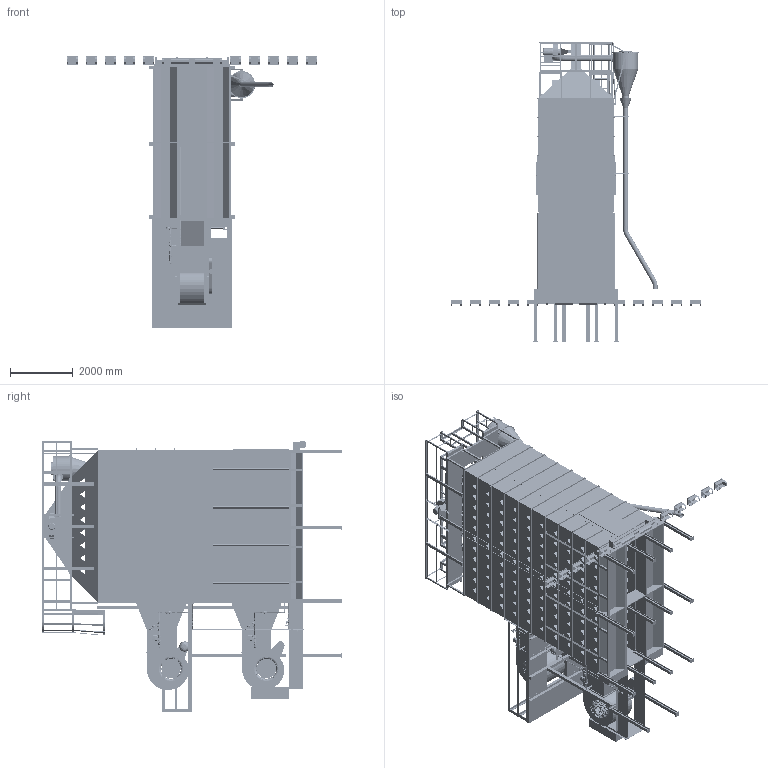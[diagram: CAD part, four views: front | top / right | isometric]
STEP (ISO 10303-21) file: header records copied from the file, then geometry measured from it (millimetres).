
FILE_DESCRIPTION(/* description */ ('PLAN AND ELEVATION VIEW FOR D16120 WITH ROOF & PRE-CLEANER'),/* implementation_level */ '2;1');
FILE_NAME(/* name */ 'C:\Engineering\Designs\Sales\Dryer\Workspaces\D16 All\D16120PC.stp',/* time_stamp */ '2025-01-06T16:48:29-06:00',/* author */ ('max.fleming'),/* organization */ (''),/* preprocessor_version */ 'ST-DEVELOPER v18.1',/* originating_system */ 'Autodesk Inventor 2022',/* authorisation */ '');
FILE_SCHEMA (('AUTOMOTIVE_DESIGN { 1 0 10303 214 3 1 1 }'));
Products named in the file (40): D16120PC; 16FT FRAME; 8FT LHRH FRAME; 16FT ROOF GF; 8FTRoof GF LHRH; Tongue; 16FT BODY TIER; LH Body; RH Body; LH Body_MIR6; RH Body_MIR6; Outside Splice; Standard Size End Plenum Panels; Ladder 2' section; Trans & Blower; Belt Shield; Screen Guard; LP Fuel; Stiffeners; Platform; Platform Support 1-T; 1 Tier Vertical Support; 6'' CROSS AUGER; Leg Kit-02; LP Inlet; 16FT PRE CLEANER RH DIS; 16FT Pre Cleaner Grav Assy; Aspirator Blower CCW; Aspirator Blower; NEMA MOTOR 182T; 16FT FULL CATWALK W PRE CLEANER MOUNTS; Pre-Cleaner Cyclone; 16FT Aspirator 8in Pipe; 6in PIPE SLEEVE 11L; 6IN ELBOW; 6in PIPE 60L; PIPE SUPPORT; Ladder Cage; 6IN HANGER; Liquid Propane Pipe
Assembly tree (131 placements, depth 4):
  D16120PC
    16FT FRAME
      8FT LHRH FRAME  x2
    16FT ROOF GF
      8FTRoof GF LHRH  x2
    Tongue
    16FT BODY TIER  x10
      LH Body
      RH Body
      LH Body_MIR6
      RH Body_MIR6
      Outside Splice
    Leg Kit-02  x12
    Standard Size End Plenum Panels  x17
    Trans & Blower  x2
    Belt Shield  x2
    Screen Guard  x4
    LP Fuel  x2
    Stiffeners  x32
    Platform
    Platform Support 1-T
    1 Tier Vertical Support  x8
    LP Inlet
    16FT PRE CLEANER RH DIS
      16FT Pre Cleaner Grav Assy
      Aspirator Blower CCW
        Aspirator Blower
        NEMA MOTOR 182T
      16FT FULL CATWALK W PRE CLEANER MOUNTS
      Pre-Cleaner Cyclone
      16FT Aspirator 8in Pipe
    6in PIPE SLEEVE 11L
    6in PIPE 60L  x4
    6IN ELBOW  x2
    6IN HANGER  x3
    PIPE SUPPORT  x2
    Ladder Cage
    Liquid Propane Pipe  x5
  Ladder 2' section
  6'' CROSS AUGER
Bounding box: 8007.35 x 9558.74 x 8695.06 mm (x, y, z)
Volume: 55654177309.2 mm3; surface area: 832017430.8 mm2
Topology: 494 solids, 652 shells, 38023 faces, 98632 edges, 62994 vertices
Faces by surface type: plane 18079, cylinder 10984, bspline 3779, cone 3396, torus 1601, sphere 184
Full cylindrical faces by diameter (mm): 1 x10, 1.651 x6, 1.753 x6, 1.778 x12, 2.019 x4, 2.108 x2, 2.286 x24, 2.489 x2, 2.54 x4, 3.091 x288, 3.175 x5, 3.251 x20, 3.306 x288, 3.522 x2, 3.658 x28, 3.8 x16, 4 x384, 4.039 x20, 4.166 x256, 4.191 x4, 4.229 x2, 4.267 x2, 4.369 x8, 4.445 x8, 4.701 x592, 4.762 x16, 4.851 x8, 4.928 x32, 5.283 x2, 5.527 x20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
Entity records: 771382 total; most frequent: CARTESIAN_POINT 342010, ORIENTED_EDGE 89816, DIRECTION 80315, EDGE_CURVE 45048, VERTEX_POINT 28781, AXIS2_PLACEMENT_3D 27530, LINE 25255, VECTOR 25255
